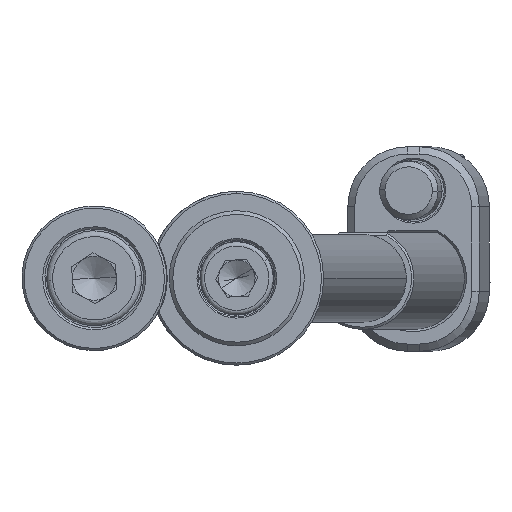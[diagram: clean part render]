
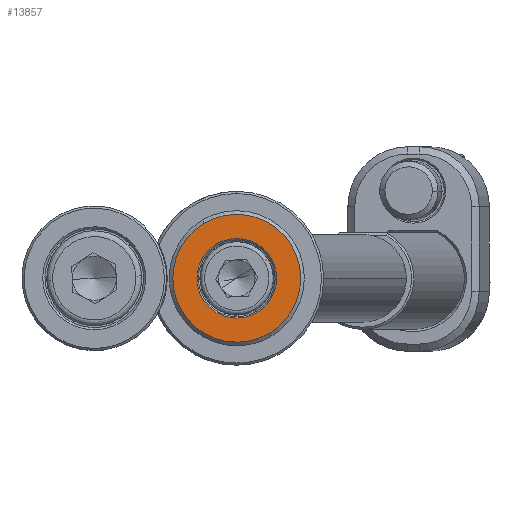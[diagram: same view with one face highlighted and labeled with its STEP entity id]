
A CAD part, front view. The second image highlights one B-rep face of the part: STEP entity #13857.
In plain terms, the highlighted planar face has unit normal (0, -1, 0).
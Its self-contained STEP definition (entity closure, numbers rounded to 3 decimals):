
#176 = DIRECTION ( 'NONE',  ( 0., -1., 0. ) ) ;
#479 = VERTEX_POINT ( 'NONE', #1225 ) ;
#605 = EDGE_CURVE ( 'NONE', #479, #10690, #5148, .T. ) ;
#1225 = CARTESIAN_POINT ( 'NONE',  ( -2.753, -4., 4.704 ) ) ;
#1636 = CARTESIAN_POINT ( 'NONE',  ( -4.42, -4., 7.552 ) ) ;
#1682 = ORIENTED_EDGE ( 'NONE', *, *, #4209, .T. ) ;
#2320 = CARTESIAN_POINT ( 'NONE',  ( -4.531, -4., -2.652 ) ) ;
#3016 = DIRECTION ( 'NONE',  ( -0.505, 0., 0.863 ) ) ;
#3389 = CARTESIAN_POINT ( 'NONE',  ( 0., -4., 0. ) ) ;
#3516 = FACE_OUTER_BOUND ( 'NONE', #6869, .T. ) ;
#4175 = CARTESIAN_POINT ( 'NONE',  ( 0., -4., 0. ) ) ;
#4209 = EDGE_CURVE ( 'NONE', #10690, #479, #7830, .T. ) ;
#4409 = AXIS2_PLACEMENT_3D ( 'NONE', #3389, #9007, #13473 ) ;
#4866 = VERTEX_POINT ( 'NONE', #10248 ) ;
#5148 = CIRCLE ( 'NONE', #8826, 5.45 ) ;
#5174 = CIRCLE ( 'NONE', #7909, 8.75 ) ;
#6533 = AXIS2_PLACEMENT_3D ( 'NONE', #9125, #176, #6874 ) ;
#6643 = DIRECTION ( 'NONE',  ( 0., -1., 0. ) ) ;
#6687 = DIRECTION ( 'NONE',  ( 0., 1., 0. ) ) ;
#6869 = EDGE_LOOP ( 'NONE', ( #9715, #11117 ) ) ;
#6874 = DIRECTION ( 'NONE',  ( -0.505, 0., 0.863 ) ) ;
#6949 = ORIENTED_EDGE ( 'NONE', *, *, #605, .T. ) ;
#7277 = DIRECTION ( 'NONE',  ( -0.505, 0., 0.863 ) ) ;
#7792 = EDGE_LOOP ( 'NONE', ( #1682, #6949 ) ) ;
#7830 = CIRCLE ( 'NONE', #4409, 5.45 ) ;
#7909 = AXIS2_PLACEMENT_3D ( 'NONE', #10684, #6643, #3016 ) ;
#8826 = AXIS2_PLACEMENT_3D ( 'NONE', #4175, #11888, #7277 ) ;
#8987 = CARTESIAN_POINT ( 'NONE',  ( 2.753, -4., -4.704 ) ) ;
#9007 = DIRECTION ( 'NONE',  ( 0., 1., 0. ) ) ;
#9125 = CARTESIAN_POINT ( 'NONE',  ( 0., -4., 0. ) ) ;
#9373 = DIRECTION ( 'NONE',  ( -0.505, 0., 0.863 ) ) ;
#9715 = ORIENTED_EDGE ( 'NONE', *, *, #11945, .T. ) ;
#10248 = CARTESIAN_POINT ( 'NONE',  ( 4.42, -4., -7.552 ) ) ;
#10684 = CARTESIAN_POINT ( 'NONE',  ( 0., -4., 0. ) ) ;
#10690 = VERTEX_POINT ( 'NONE', #8987 ) ;
#11117 = ORIENTED_EDGE ( 'NONE', *, *, #12183, .T. ) ;
#11888 = DIRECTION ( 'NONE',  ( 0., 1., 0. ) ) ;
#11945 = EDGE_CURVE ( 'NONE', #12913, #4866, #12591, .T. ) ;
#12183 = EDGE_CURVE ( 'NONE', #4866, #12913, #5174, .T. ) ;
#12391 = PLANE ( 'NONE',  #14332 ) ;
#12591 = CIRCLE ( 'NONE', #6533, 8.75 ) ;
#12913 = VERTEX_POINT ( 'NONE', #1636 ) ;
#13260 = FACE_BOUND ( 'NONE', #7792, .T. ) ;
#13473 = DIRECTION ( 'NONE',  ( -0.505, 0., 0.863 ) ) ;
#13857 = ADVANCED_FACE ( 'NONE', ( #13260, #3516 ), #12391, .F. ) ;
#14332 = AXIS2_PLACEMENT_3D ( 'NONE', #2320, #6687, #9373 ) ;
